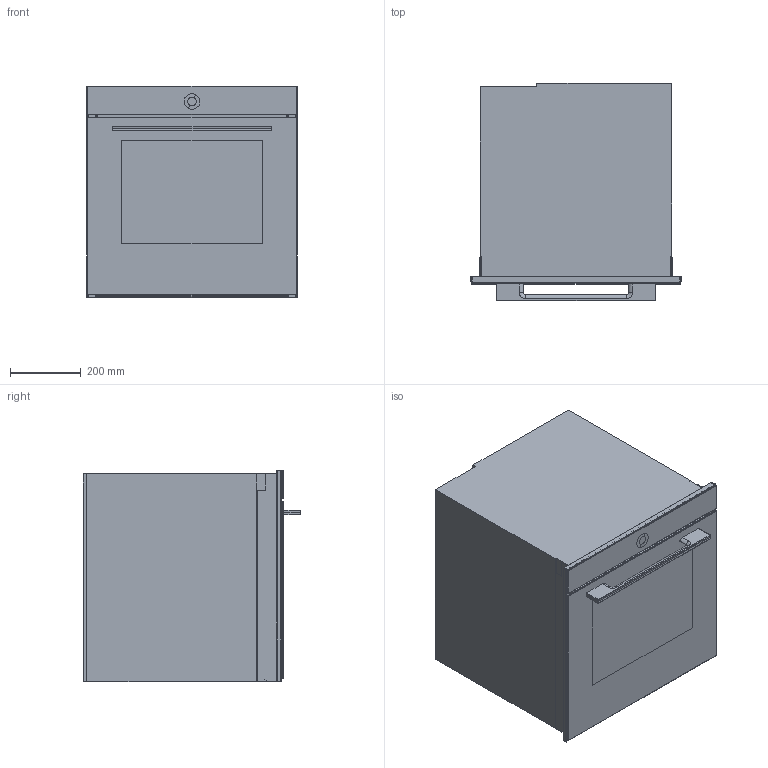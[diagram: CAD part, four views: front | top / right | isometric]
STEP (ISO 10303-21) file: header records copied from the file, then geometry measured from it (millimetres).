
FILE_DESCRIPTION(/* description */ (''),/* implementation_level */ '2;1');
FILE_NAME(/* name */ 'X2104300001',/* time_stamp */ '2020-10-26T11:13:39+01:00',/* author */ (''),/* organization */ (''),/* preprocessor_version */ 'ST-DEVELOPER v16.5',/* originating_system */ '',/* authorisation */ '');
FILE_SCHEMA (('AUTOMOTIVE_DESIGN'));
Length unit declared in the file: millimetre
Products named in the file (1): Document
Bounding box: 597 x 614.88 x 598.05 mm (x, y, z)
Volume: 169707729 mm3; surface area: 3823046.4 mm2
Topology: 12 solids, 12 shells, 332 faces, 805 edges, 482 vertices
Faces by surface type: plane 172, bspline 160
Entity records: 13108 total; most frequent: CARTESIAN_POINT 8118, ORIENTED_EDGE 1578, EDGE_CURVE 789, VERTEX_POINT 482, B_SPLINE_CURVE_WITH_KNOTS 450, EDGE_LOOP 339, ADVANCED_FACE 332, FACE_OUTER_BOUND 332
